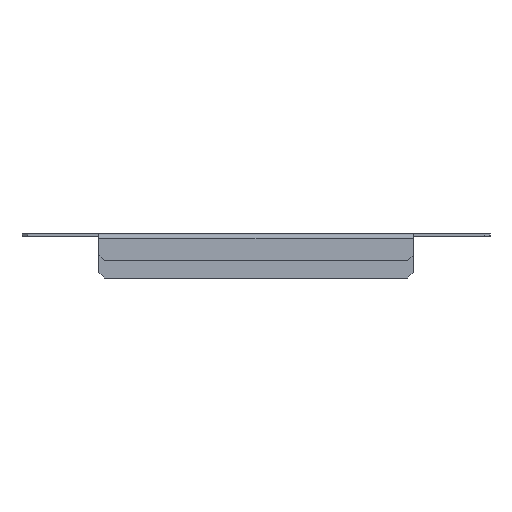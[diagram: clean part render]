
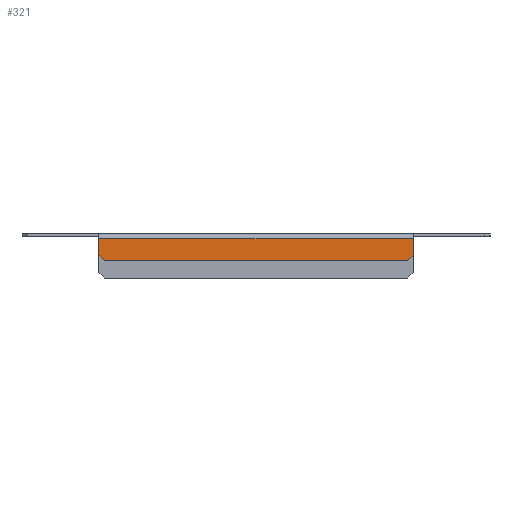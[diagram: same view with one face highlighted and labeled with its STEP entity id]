
A CAD part, front view. The second image highlights one B-rep face of the part: STEP entity #321.
In plain terms, the highlighted planar face has unit normal (0, -1, 0).
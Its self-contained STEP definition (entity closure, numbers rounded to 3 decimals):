
#32 = CARTESIAN_POINT ( 'NONE',  ( 96.25, -99.5, -2.9 ) ) ;
#34 = CARTESIAN_POINT ( 'NONE',  ( -96.25, -99.5, -2.9 ) ) ;
#35 = CARTESIAN_POINT ( 'NONE',  ( 96.25, -99.5, -12.8 ) ) ;
#38 = CARTESIAN_POINT ( 'NONE',  ( -96.25, -99.5, -12.8 ) ) ;
#39 = CARTESIAN_POINT ( 'NONE',  ( 92.75, -99.5, -16.3 ) ) ;
#40 = CARTESIAN_POINT ( 'NONE',  ( -92.75, -99.5, -16.3 ) ) ;
#212 = EDGE_CURVE ( 'NONE', #606, #604, #982, .T. ) ;
#299 = EDGE_CURVE ( 'NONE', #610, #606, #1204, .T. ) ;
#300 = EDGE_CURVE ( 'NONE', #610, #612, #1208, .T. ) ;
#303 = EDGE_CURVE ( 'NONE', #611, #612, #1214, .T. ) ;
#321 = ADVANCED_FACE ( 'NONE', ( #509 ), #1265, .F. ) ;
#348 = EDGE_CURVE ( 'NONE', #611, #607, #1348, .T. ) ;
#352 = EDGE_CURVE ( 'NONE', #604, #607, #1360, .T. ) ;
#466 = VECTOR ( 'NONE', #984, 1000. ) ;
#495 = AXIS2_PLACEMENT_3D ( 'NONE', #1266, #1267, #1268 ) ;
#509 = FACE_OUTER_BOUND ( 'NONE', #632, .T. ) ;
#522 = VECTOR ( 'NONE', #1216, 1000. ) ;
#524 = VECTOR ( 'NONE', #1210, 1000. ) ;
#525 = VECTOR ( 'NONE', #1206, 1000. ) ;
#604 = VERTEX_POINT ( 'NONE', #32 ) ;
#606 = VERTEX_POINT ( 'NONE', #34 ) ;
#607 = VERTEX_POINT ( 'NONE', #35 ) ;
#610 = VERTEX_POINT ( 'NONE', #38 ) ;
#611 = VERTEX_POINT ( 'NONE', #39 ) ;
#612 = VERTEX_POINT ( 'NONE', #40 ) ;
#632 = EDGE_LOOP ( 'NONE', ( #853, #851, #852, #859, #860, #858 ) ) ;
#851 = ORIENTED_EDGE ( 'NONE', *, *, #348, .T. ) ;
#852 = ORIENTED_EDGE ( 'NONE', *, *, #352, .F. ) ;
#853 = ORIENTED_EDGE ( 'NONE', *, *, #303, .F. ) ;
#858 = ORIENTED_EDGE ( 'NONE', *, *, #300, .T. ) ;
#859 = ORIENTED_EDGE ( 'NONE', *, *, #212, .F. ) ;
#860 = ORIENTED_EDGE ( 'NONE', *, *, #299, .F. ) ;
#982 = LINE ( 'NONE', #983, #466 ) ;
#983 = CARTESIAN_POINT ( 'NONE',  ( 96.25, -99.5, -2.9 ) ) ;
#984 = DIRECTION ( 'NONE',  ( 1., 0., 0. ) ) ;
#1204 = LINE ( 'NONE', #1205, #525 ) ;
#1205 = CARTESIAN_POINT ( 'NONE',  ( -96.25, -99.5, -27. ) ) ;
#1206 = DIRECTION ( 'NONE',  ( 0., 0., 1. ) ) ;
#1208 = LINE ( 'NONE', #1209, #524 ) ;
#1209 = CARTESIAN_POINT ( 'NONE',  ( -92.75, -99.5, -16.3 ) ) ;
#1210 = DIRECTION ( 'NONE',  ( 0.707, 0., -0.707 ) ) ;
#1214 = LINE ( 'NONE', #1215, #522 ) ;
#1215 = CARTESIAN_POINT ( 'NONE',  ( 96.25, -99.5, -16.3 ) ) ;
#1216 = DIRECTION ( 'NONE',  ( -1., 0., 0. ) ) ;
#1265 = PLANE ( 'NONE',  #495 ) ;
#1266 = CARTESIAN_POINT ( 'NONE',  ( 96.25, -99.5, -27. ) ) ;
#1267 = DIRECTION ( 'NONE',  ( 0., 1., 0. ) ) ;
#1268 = DIRECTION ( 'NONE',  ( 0., 0., 1. ) ) ;
#1348 = LINE ( 'NONE', #1349, #1561 ) ;
#1349 = CARTESIAN_POINT ( 'NONE',  ( 96.25, -99.5, -12.8 ) ) ;
#1350 = DIRECTION ( 'NONE',  ( 0.707, 0., 0.707 ) ) ;
#1360 = LINE ( 'NONE', #1361, #1563 ) ;
#1361 = CARTESIAN_POINT ( 'NONE',  ( 96.25, -99.5, -1.4 ) ) ;
#1362 = DIRECTION ( 'NONE',  ( 0., 0., -1. ) ) ;
#1561 = VECTOR ( 'NONE', #1350, 1000. ) ;
#1563 = VECTOR ( 'NONE', #1362, 1000. ) ;
